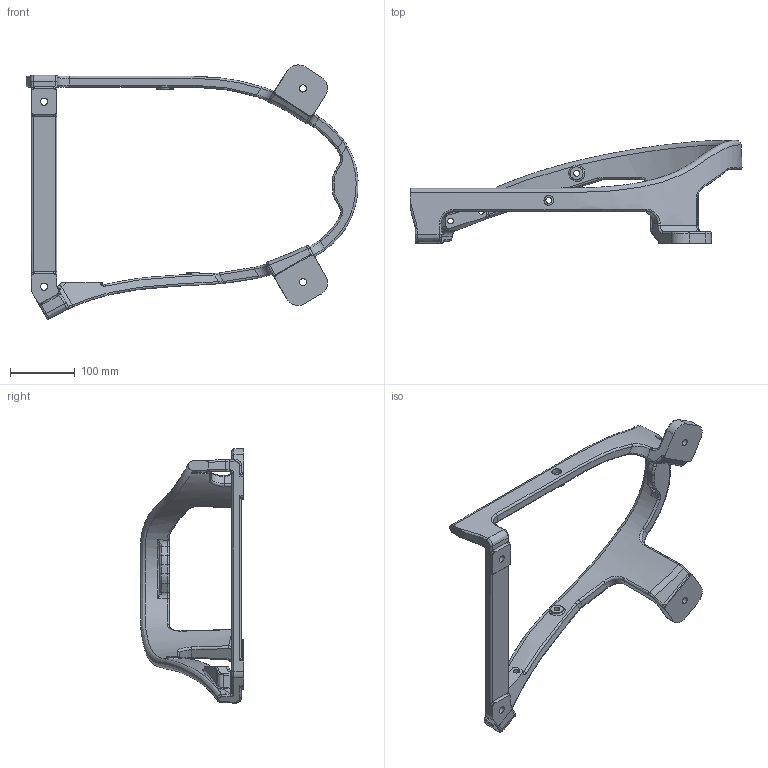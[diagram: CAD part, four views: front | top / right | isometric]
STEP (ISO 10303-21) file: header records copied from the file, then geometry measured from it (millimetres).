
FILE_DESCRIPTION((''),'2;1');
FILE_NAME('1577-2177','2004-01-22T',('rdem'),(''),'PRO/ENGINEER BY PARAMETRIC TECHNOLOGY CORPORATION, 2003441','PRO/ENGINEER BY PARAMETRIC TECHNOLOGY CORPORATION, 2003441','');
FILE_SCHEMA(('CONFIG_CONTROL_DESIGN'));
Length unit declared in the file: millimetre
Products named in the file (1): 1577-2177
Bounding box: 514.18 x 159.81 x 393.68 mm (x, y, z)
Volume: 919690.2 mm3; surface area: 221570.7 mm2
Topology: 1 solids, 1 shells, 292 faces, 697 edges, 413 vertices
Faces by surface type: bspline 123, cylinder 100, plane 50, torus 18, sphere 1
Entity records: 23454 total; most frequent: CARTESIAN_POINT 17453, ORIENTED_EDGE 1394, DIRECTION 1039, EDGE_CURVE 697, AXIS2_PLACEMENT_3D 422, VERTEX_POINT 413, EDGE_LOOP 316, FACE_OUTER_BOUND 292
